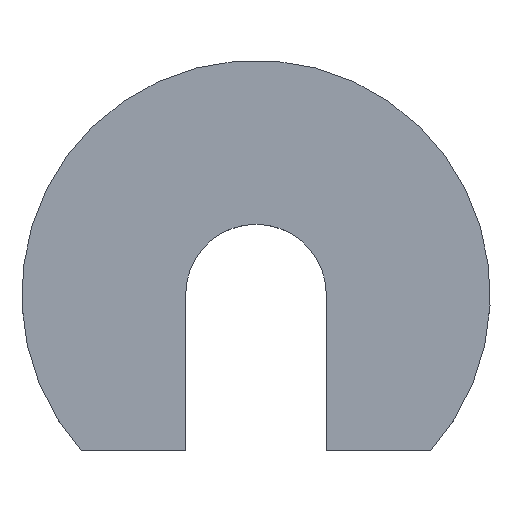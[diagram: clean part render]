
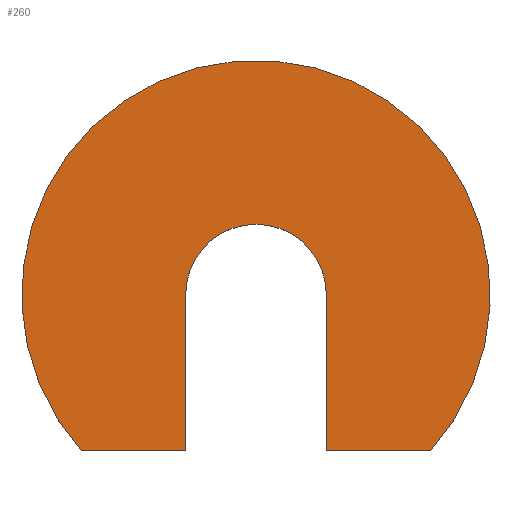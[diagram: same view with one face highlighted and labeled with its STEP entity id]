
A CAD part, top view. The second image highlights one B-rep face of the part: STEP entity #260.
In plain terms, the highlighted planar face has unit normal (0, 0, 1).
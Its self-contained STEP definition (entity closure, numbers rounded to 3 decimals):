
#63=CARTESIAN_POINT('Vertex',(11.18,-10.,2.)) ;
#77=CARTESIAN_POINT('Vertex',(-11.18,-10.,2.)) ;
#80=CARTESIAN_POINT('Axis2P3D Location',(0.,0.,2.)) ;
#108=CARTESIAN_POINT('Vertex',(-4.5,-10.,2.)) ;
#111=CARTESIAN_POINT('Line Origine',(-7.84,-10.,2.)) ;
#139=CARTESIAN_POINT('Vertex',(-4.5,0.,2.)) ;
#142=CARTESIAN_POINT('Line Origine',(-4.5,-5.,2.)) ;
#170=CARTESIAN_POINT('Vertex',(4.5,0.,2.)) ;
#173=CARTESIAN_POINT('Axis2P3D Location',(0.,0.,2.)) ;
#201=CARTESIAN_POINT('Vertex',(4.5,-10.,2.)) ;
#204=CARTESIAN_POINT('Line Origine',(4.5,-5.,2.)) ;
#221=CARTESIAN_POINT('Line Origine',(7.84,-10.,2.)) ;
#247=CARTESIAN_POINT('Axis2P3D Location',(0.,0.,2.)) ;
#81=DIRECTION('Axis2P3D Direction',(0.,0.,1.)) ;
#112=DIRECTION('Vector Direction',(1.,0.,0.)) ;
#143=DIRECTION('Vector Direction',(0.,1.,0.)) ;
#174=DIRECTION('Axis2P3D Direction',(0.,0.,1.)) ;
#205=DIRECTION('Vector Direction',(0.,-1.,0.)) ;
#222=DIRECTION('Vector Direction',(1.,0.,0.)) ;
#248=DIRECTION('Axis2P3D Direction',(0.,0.,1.)) ;
#249=DIRECTION('Axis2P3D XDirection',(1.,0.,0.)) ;
#82=AXIS2_PLACEMENT_3D('Circle Axis2P3D',#80,#81,$) ;
#175=AXIS2_PLACEMENT_3D('Circle Axis2P3D',#173,#174,$) ;
#250=AXIS2_PLACEMENT_3D('Plane Axis2P3D',#247,#248,#249) ;
#253=ORIENTED_EDGE('',*,*,#84,.T.) ;
#254=ORIENTED_EDGE('',*,*,#115,.T.) ;
#255=ORIENTED_EDGE('',*,*,#146,.T.) ;
#256=ORIENTED_EDGE('',*,*,#177,.T.) ;
#257=ORIENTED_EDGE('',*,*,#208,.T.) ;
#258=ORIENTED_EDGE('',*,*,#225,.T.) ;
#113=VECTOR('Line Direction',#112,1.) ;
#144=VECTOR('Line Direction',#143,1.) ;
#206=VECTOR('Line Direction',#205,1.) ;
#223=VECTOR('Line Direction',#222,1.) ;
#260=ADVANCED_FACE('PartBody',(#259),#251,.T.) ;
#83=CIRCLE('generated circle',#82,15.) ;
#176=CIRCLE('generated circle',#175,4.5) ;
#84=EDGE_CURVE('',#64,#78,#83,.T.) ;
#115=EDGE_CURVE('',#78,#109,#114,.T.) ;
#146=EDGE_CURVE('',#109,#140,#145,.T.) ;
#177=EDGE_CURVE('',#140,#171,#176,.F.) ;
#208=EDGE_CURVE('',#171,#202,#207,.T.) ;
#225=EDGE_CURVE('',#202,#64,#224,.T.) ;
#252=EDGE_LOOP('',(#253,#254,#255,#256,#257,#258)) ;
#259=FACE_OUTER_BOUND('',#252,.T.) ;
#114=LINE('Line',#111,#113) ;
#145=LINE('Line',#142,#144) ;
#207=LINE('Line',#204,#206) ;
#224=LINE('Line',#221,#223) ;
#251=PLANE('Plane',#250) ;
#64=VERTEX_POINT('',#63) ;
#78=VERTEX_POINT('',#77) ;
#109=VERTEX_POINT('',#108) ;
#140=VERTEX_POINT('',#139) ;
#171=VERTEX_POINT('',#170) ;
#202=VERTEX_POINT('',#201) ;
